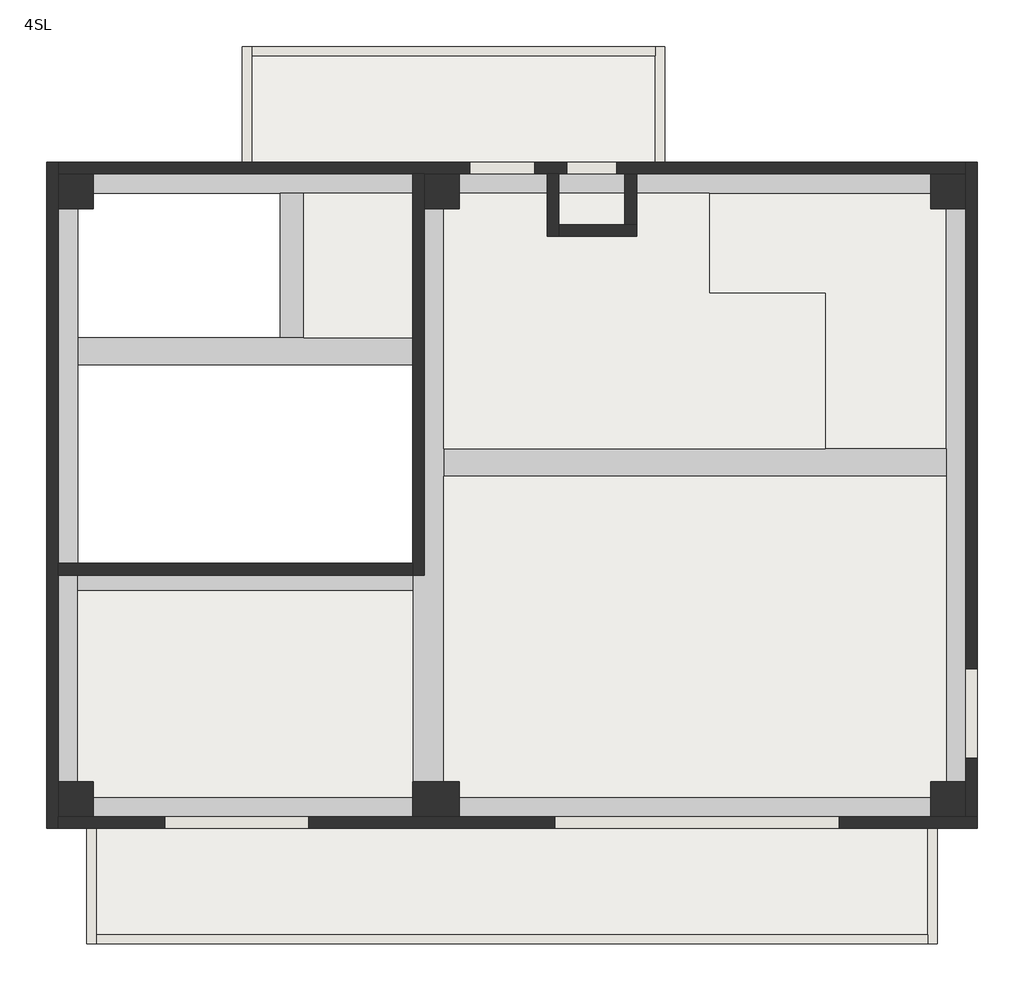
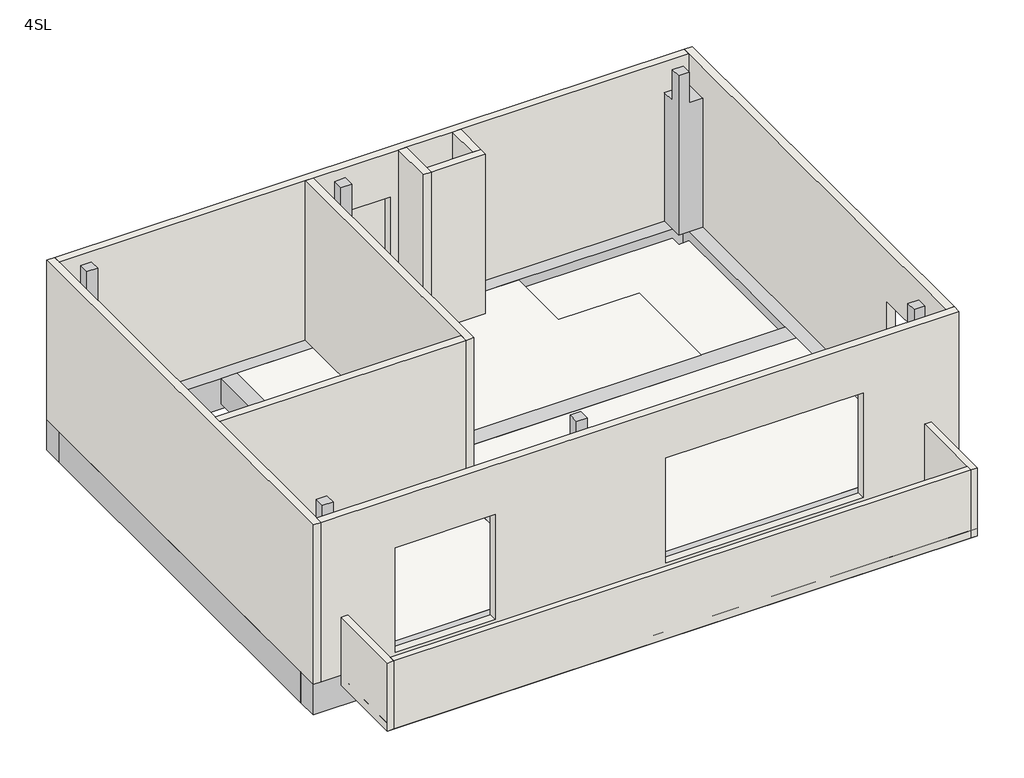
# One storey: 15 walls, 11 beams, 7 slabs, 6 columns.
"""IFC4 building model written with IfcOpenShell, lengths in millimetres."""

from ifc_helpers import new_model, si_unit, frame, origin, place, context, project, spatial, polyline, outline, extrude, faceted_brep, element, save

model = new_model("IFC4")

# Units and contexts
model_context = context("Model", 3, world=origin())
ifc_project = project(units=[si_unit("LENGTHUNIT", "METRE", prefix="MILLI")], contexts=[model_context])

# Site, building, storey
site = spatial("IfcSite", under=ifc_project)
building = spatial("IfcBuilding", under=site)
storey = spatial("IfcBuildingStorey", under=building, Name="4SL", Elevation=9660.0)

# Beams
placement = place(None, origin())
element("IfcBeam", 1, ObjectType="コンクリート-長方形梁 : B1-350x550", at=placement, inside=storey, context=model_context, shape_type="Brep", body=[
    faceted_brep([(325.0, 6225.0, 9660.0), (325.0, 5875.0, 9660.0), (4625.0, 5875.0, 9660.0), (4625.0, 6225.0, 9660.0), (3225.0, 6225.0, 9660.0), (2925.0, 6225.0, 9660.0), (325.0, 5875.0, 9110.0), (4625.0, 5875.0, 9110.0), (325.0, 6225.0, 9110.0), (4625.0, 6225.0, 9110.0)], [[[0, 1, 2, 3, 4, 5]], [[1, 6, 7, 2]], [[6, 8, 9, 7]], [[8, 0, 5, 4, 3, 9]], [[1, 0, 8, 6]], [[3, 2, 7, 9]]]),
])
element("IfcBeam", 2, ObjectType="コンクリート-長方形梁 : B1-350x550", at=placement, inside=storey, context=model_context, shape_type="SweptSolid", body=[
    extrude(outline(polyline([(325.0, 2975.0), (325.0, 3325.0), (4625.0, 3325.0), (4625.0, 2975.0), (325.0, 2975.0)])), frame((0.0, 0.0, 9110.0), z_axis=(0.0, 0.0, 1.0), x_axis=(1.0, 0.0, 0.0)), (0.0, 0.0, 1.0), 550.0),
])
element("IfcBeam", 3, ObjectType="コンクリート-長方形梁 : B1-350x550", at=placement, inside=storey, context=model_context, shape_type="SweptSolid", body=[
    extrude(outline(polyline([(11475.0, 4795.0), (11475.0, 4445.0), (5025.0, 4445.0), (5025.0, 4795.0), (11475.0, 4795.0)])), frame((0.0, 0.0, 9110.0), z_axis=(0.0, 0.0, 1.0), x_axis=(1.0, 0.0, 0.0)), (0.0, 0.0, 1.0), 550.0),
])
element("IfcBeam", 4, ObjectType="コンクリート-長方形梁 : B2-300x500", at=placement, inside=storey, context=model_context, shape_type="SweptSolid", body=[
    extrude(outline(polyline([(2925.0, 8075.0), (3225.0, 8075.0), (3225.0, 6225.0), (2925.0, 6225.0), (2925.0, 8075.0)])), frame((0.0, 0.0, 9160.0), z_axis=(0.0, 0.0, 1.0), x_axis=(1.0, 0.0, 0.0)), (0.0, 0.0, 1.0), 500.0),
])
element("IfcBeam", 5, ObjectType="コンクリート-長方形梁 : G1-400x600", at=placement, inside=storey, context=model_context, shape_type="Brep", body=[
    faceted_brep([(-75.0, 325.0, 9660.0), (-75.0, -75.0, 9660.0), (5025.0, -75.0, 9660.0), (5025.0, 325.0, 9660.0), (4625.0, 325.0, 9660.0), (525.0, 325.0, 9660.0), (325.0, 325.0, 9660.0), (-75.0, -75.0, 9060.0), (5025.0, -75.0, 9060.0), (-75.0, 325.0, 9060.0), (325.0, 325.0, 9060.0), (525.0, 325.0, 9060.0), (4625.0, 325.0, 9060.0), (5025.0, 325.0, 9060.0)], [[[0, 1, 2, 3, 4, 5, 6]], [[1, 7, 8, 2]], [[7, 9, 10, 11, 12, 13, 8]], [[9, 0, 6, 5, 4, 3, 13, 12, 11, 10]], [[1, 0, 9, 7]], [[3, 2, 8, 13]]]),
])
element("IfcBeam", 6, ObjectType="コンクリート-長方形梁 : G1-400x600", at=placement, inside=storey, context=model_context, shape_type="Brep", body=[
    faceted_brep([(11875.0, -75.0, 9660.0), (11875.0, 325.0, 9660.0), (11475.0, 325.0, 9660.0), (11275.0, 325.0, 9660.0), (5225.0, 325.0, 9660.0), (5025.0, 325.0, 9660.0), (5025.0, -75.0, 9660.0), (11875.0, -75.0, 9060.0), (5025.0, -75.0, 9060.0), (11875.0, 325.0, 9060.0), (5025.0, 325.0, 9060.0), (5225.0, 325.0, 9060.0), (11275.0, 325.0, 9060.0), (11475.0, 325.0, 9060.0)], [[[0, 1, 2, 3, 4, 5, 6]], [[7, 0, 6, 8]], [[9, 7, 8, 10, 11, 12, 13]], [[1, 9, 13, 12, 11, 10, 5, 4, 3, 2]], [[6, 5, 10, 8]], [[1, 0, 7, 9]]]),
])
element("IfcBeam", 7, ObjectType="コンクリート-長方形梁 : G1-400x600", at=placement, inside=storey, context=model_context, shape_type="Brep", body=[
    faceted_brep([(11875.0, 8475.0, 9660.0), (11475.0, 8475.0, 9660.0), (11475.0, 8075.0, 9660.0), (11475.0, 7875.0, 9660.0), (11475.0, 4795.0, 9660.0), (11475.0, 4445.0, 9660.0), (11475.0, 525.0, 9660.0), (11475.0, 325.0, 9660.0), (11875.0, 325.0, 9660.0), (11875.0, 8475.0, 9060.0), (11875.0, 325.0, 9060.0), (11475.0, 8475.0, 9060.0), (11475.0, 325.0, 9060.0), (11475.0, 525.0, 9060.0), (11475.0, 7875.0, 9060.0), (11475.0, 8075.0, 9060.0)], [[[0, 1, 2, 3, 4, 5, 6, 7, 8]], [[9, 0, 8, 10]], [[11, 9, 10, 12, 13, 14, 15]], [[1, 11, 15, 14, 13, 12, 7, 6, 5, 4, 3, 2]], [[8, 7, 12, 10]], [[1, 0, 9, 11]]]),
])
element("IfcBeam", 8, ObjectType="コンクリート-長方形梁 : G1-400x600", at=placement, inside=storey, context=model_context, shape_type="Brep", body=[
    faceted_brep([(4625.0, 8475.0, 9660.0), (4625.0, 8075.0, 9660.0), (5025.0, 8075.0, 9660.0), (5225.0, 8075.0, 9660.0), (11275.0, 8075.0, 9660.0), (11475.0, 8075.0, 9660.0), (11475.0, 8475.0, 9660.0), (4625.0, 8475.0, 9060.0), (11475.0, 8475.0, 9060.0), (4625.0, 8075.0, 9060.0), (11475.0, 8075.0, 9060.0), (11275.0, 8075.0, 9060.0), (5225.0, 8075.0, 9060.0), (5025.0, 8075.0, 9060.0)], [[[0, 1, 2, 3, 4, 5, 6]], [[7, 0, 6, 8]], [[9, 7, 8, 10, 11, 12, 13]], [[1, 9, 13, 12, 11, 10, 5, 4, 3, 2]], [[6, 5, 10, 8]], [[1, 0, 7, 9]]]),
])
element("IfcBeam", 9, ObjectType="コンクリート-長方形梁 : G1-400x600", at=placement, inside=storey, context=model_context, shape_type="Brep", body=[
    faceted_brep([(-75.0, 8475.0, 9660.0), (-75.0, 8075.0, 9660.0), (325.0, 8075.0, 9660.0), (525.0, 8075.0, 9660.0), (2925.0, 8075.0, 9660.0), (3225.0, 8075.0, 9660.0), (4625.0, 8075.0, 9660.0), (4625.0, 8475.0, 9660.0), (-75.0, 8475.0, 9060.0), (4625.0, 8475.0, 9060.0), (-75.0, 8075.0, 9060.0), (4625.0, 8075.0, 9060.0), (525.0, 8075.0, 9060.0), (325.0, 8075.0, 9060.0)], [[[0, 1, 2, 3, 4, 5, 6, 7]], [[8, 0, 7, 9]], [[10, 8, 9, 11, 12, 13]], [[1, 10, 13, 12, 11, 6, 5, 4, 3, 2]], [[7, 6, 11, 9]], [[1, 0, 8, 10]]]),
])
element("IfcBeam", 10, ObjectType="コンクリート-長方形梁 : G1-400x600", at=placement, inside=storey, context=model_context, shape_type="Brep", body=[
    faceted_brep([(-75.0, 325.0, 9660.0), (325.0, 325.0, 9660.0), (325.0, 525.0, 9660.0), (325.0, 2975.0, 9660.0), (325.0, 3325.0, 9660.0), (325.0, 5875.0, 9660.0), (325.0, 6225.0, 9660.0), (325.0, 7875.0, 9660.0), (325.0, 8075.0, 9660.0), (-75.0, 8075.0, 9660.0), (-75.0, 325.0, 9060.0), (-75.0, 8075.0, 9060.0), (325.0, 325.0, 9060.0), (325.0, 8075.0, 9060.0), (325.0, 7875.0, 9060.0), (325.0, 525.0, 9060.0)], [[[0, 1, 2, 3, 4, 5, 6, 7, 8, 9]], [[10, 0, 9, 11]], [[12, 10, 11, 13, 14, 15]], [[1, 12, 15, 14, 13, 8, 7, 6, 5, 4, 3, 2]], [[1, 0, 10, 12]], [[9, 8, 13, 11]]]),
])
element("IfcBeam", 11, ObjectType="コンクリート-長方形梁 : G1-400x600", at=placement, inside=storey, context=model_context, shape_type="Brep", body=[
    faceted_brep([(4625.0, 325.0, 9660.0), (5025.0, 325.0, 9660.0), (5025.0, 525.0, 9660.0), (5025.0, 4445.0, 9660.0), (5025.0, 4795.0, 9660.0), (5025.0, 7875.0, 9660.0), (5025.0, 8075.0, 9660.0), (4625.0, 8075.0, 9660.0), (4625.0, 6225.0, 9660.0), (4625.0, 5875.0, 9660.0), (4625.0, 3325.0, 9660.0), (4625.0, 2975.0, 9660.0), (4625.0, 325.0, 9060.0), (4625.0, 8075.0, 9060.0), (4625.0, 525.0, 9060.0), (5025.0, 325.0, 9060.0), (5025.0, 8075.0, 9060.0), (5025.0, 7875.0, 9060.0), (5025.0, 525.0, 9060.0)], [[[0, 1, 2, 3, 4, 5, 6, 7, 8, 9, 10, 11]], [[12, 0, 11, 10, 9, 8, 7, 13, 14]], [[15, 12, 14, 13, 16, 17, 18]], [[1, 15, 18, 17, 16, 6, 5, 4, 3, 2]], [[1, 0, 12, 15]], [[7, 6, 16, 13]]]),
])

# Columns
element("IfcColumn", 12, ObjectType="角柱 : 600 x 600mm", at=placement, inside=storey, context=model_context, shape_type="Brep", body=[
    faceted_brep([(525.0, 7875.0, 12780.0), (525.0, 8075.0, 12780.0), (325.0, 8075.0, 12780.0), (325.0, 7875.0, 12780.0), (525.0, 8325.0, 9660.0), (525.0, 7875.0, 9660.0), (75.0, 7875.0, 9660.0), (75.0, 8325.0, 9660.0), (325.0, 7875.0, 12180.0), (75.0, 7875.0, 12180.0), (525.0, 8325.0, 12180.0), (525.0, 8075.0, 12180.0), (75.0, 8325.0, 12180.0), (325.0, 8075.0, 12180.0)], [[[0, 1, 2, 3]], [[4, 5, 6, 7]], [[5, 0, 3, 8, 9, 6]], [[0, 5, 4, 10, 11, 1]], [[4, 7, 12, 10]], [[7, 6, 9, 12]], [[11, 10, 12, 9, 8, 13]], [[1, 11, 13, 2]], [[13, 8, 3, 2]]]),
])
element("IfcColumn", 13, ObjectType="角柱 : 600 x 600mm", at=placement, inside=storey, context=model_context, shape_type="Brep", body=[
    faceted_brep([(525.0, 525.0, 12780.0), (325.0, 525.0, 12780.0), (325.0, 325.0, 12780.0), (525.0, 325.0, 12780.0), (75.0, 525.0, 9660.0), (525.0, 525.0, 9660.0), (525.0, 75.0, 9660.0), (75.0, 75.0, 9660.0), (75.0, 525.0, 12180.0), (325.0, 525.0, 12180.0), (525.0, 325.0, 12180.0), (525.0, 75.0, 12180.0), (75.0, 75.0, 12180.0), (325.0, 325.0, 12180.0)], [[[0, 1, 2, 3]], [[4, 5, 6, 7]], [[0, 5, 4, 8, 9, 1]], [[5, 0, 3, 10, 11, 6]], [[4, 7, 12, 8]], [[7, 6, 11, 12]], [[9, 8, 12, 11, 10, 13]], [[1, 9, 13, 2]], [[13, 10, 3, 2]]]),
])
element("IfcColumn", 14, ObjectType="角柱 : 600 x 600mm", at=placement, inside=storey, context=model_context, shape_type="Brep", body=[
    faceted_brep([(5225.0, 525.0, 12780.0), (5025.0, 525.0, 12780.0), (5025.0, 325.0, 12780.0), (5225.0, 325.0, 12780.0), (4625.0, 525.0, 9660.0), (5225.0, 525.0, 9660.0), (5225.0, 75.0, 9660.0), (4625.0, 75.0, 9660.0), (4625.0, 525.0, 12180.0), (4685.0, 525.0, 12180.0), (4775.0, 525.0, 12180.0), (5025.0, 525.0, 12180.0), (4625.0, 75.0, 12180.0), (4625.0, 325.0, 12180.0), (5225.0, 325.0, 12180.0), (5225.0, 75.0, 12180.0), (5025.0, 75.0, 12180.0), (5025.0, 325.0, 12180.0)], [[[0, 1, 2, 3]], [[4, 5, 6, 7]], [[5, 4, 8, 9, 10, 11, 1, 0]], [[4, 7, 12, 13, 8]], [[5, 0, 3, 14, 15, 6]], [[7, 6, 15, 16, 12]], [[11, 10, 9, 8, 13, 12, 16, 15, 14, 17]], [[1, 11, 17, 2]], [[17, 14, 3, 2]]]),
])
element("IfcColumn", 15, ObjectType="角柱 : 600 x 600mm", at=placement, inside=storey, context=model_context, shape_type="Brep", body=[
    faceted_brep([(11475.0, 525.0, 12780.0), (11275.0, 525.0, 12780.0), (11275.0, 325.0, 12780.0), (11475.0, 325.0, 12780.0), (11275.0, 525.0, 9660.0), (11725.0, 525.0, 9660.0), (11725.0, 75.0, 9660.0), (11275.0, 75.0, 9660.0), (11475.0, 525.0, 12180.0), (11725.0, 525.0, 12180.0), (11275.0, 75.0, 12180.0), (11275.0, 325.0, 12180.0), (11725.0, 75.0, 12180.0), (11475.0, 325.0, 12180.0)], [[[0, 1, 2, 3]], [[4, 5, 6, 7]], [[4, 1, 0, 8, 9, 5]], [[1, 4, 7, 10, 11, 2]], [[6, 5, 9, 12]], [[7, 6, 12, 10]], [[9, 8, 13, 11, 10, 12]], [[8, 0, 3, 13]], [[11, 13, 3, 2]]]),
])
element("IfcColumn", 16, ObjectType="角柱 : 600 x 600mm", at=placement, inside=storey, context=model_context, shape_type="Brep", body=[
    faceted_brep([(11275.0, 8075.0, 12780.0), (11275.0, 7875.0, 12780.0), (11475.0, 7875.0, 12780.0), (11475.0, 8075.0, 12780.0), (11275.0, 7875.0, 9660.0), (11275.0, 8325.0, 9660.0), (11725.0, 8325.0, 9660.0), (11725.0, 7875.0, 9660.0), (11275.0, 8075.0, 12180.0), (11275.0, 8325.0, 12180.0), (11725.0, 7875.0, 12180.0), (11475.0, 7875.0, 12180.0), (11725.0, 8325.0, 12180.0), (11475.0, 8075.0, 12180.0)], [[[0, 1, 2, 3]], [[4, 5, 6, 7]], [[4, 1, 0, 8, 9, 5]], [[1, 4, 7, 10, 11, 2]], [[6, 5, 9, 12]], [[7, 6, 12, 10]], [[9, 8, 13, 11, 10, 12]], [[8, 0, 3, 13]], [[11, 13, 3, 2]]]),
])
element("IfcColumn", 17, ObjectType="角柱 : 600 x 600mm", at=placement, inside=storey, context=model_context, shape_type="Brep", body=[
    faceted_brep([(5225.0, 7875.0, 12780.0), (5225.0, 8075.0, 12780.0), (5025.0, 8075.0, 12780.0), (5025.0, 7875.0, 12780.0), (5225.0, 8325.0, 9660.0), (5225.0, 7875.0, 9660.0), (4775.0, 7875.0, 9660.0), (4775.0, 8325.0, 9660.0), (5025.0, 7875.0, 12180.0), (4775.0, 7875.0, 12180.0), (5225.0, 8325.0, 12180.0), (5225.0, 8075.0, 12180.0), (4775.0, 8325.0, 12180.0), (5025.0, 8325.0, 12180.0), (4775.0, 8075.0, 12180.0), (5025.0, 8075.0, 12180.0)], [[[0, 1, 2, 3]], [[4, 5, 6, 7]], [[5, 0, 3, 8, 9, 6]], [[0, 5, 4, 10, 11, 1]], [[4, 7, 12, 13, 10]], [[7, 6, 9, 14, 12]], [[11, 10, 13, 12, 14, 9, 8, 15]], [[1, 11, 15, 2]], [[15, 8, 3, 2]]]),
])

# Slabs
element("IfcSlab", 18, ObjectType="一般180mm", at=placement, inside=storey, context=model_context, shape_type="SweptSolid", body=[
    extrude(outline(polyline([(4625.0, 2975.0), (4625.0, 325.0), (525.0, 325.0), (525.0, 525.0), (325.0, 525.0), (325.0, 2975.0), (4625.0, 2975.0)])), frame((0.0, 0.0, 9480.0), z_axis=(0.0, 0.0, 1.0), x_axis=(1.0, 0.0, 0.0)), (0.0, 0.0, 1.0), 180.0),
])
element("IfcSlab", 19, ObjectType="一般180mm", at=placement, inside=storey, context=model_context, shape_type="SweptSolid", body=[
    extrude(outline(polyline([(5025.0, 525.0), (5025.0, 4445.0), (11475.0, 4445.0), (11475.0, 525.0), (11275.0, 525.0), (11275.0, 325.0), (5225.0, 325.0), (5225.0, 525.0), (5025.0, 525.0)])), frame((0.0, 0.0, 9480.0), z_axis=(0.0, 0.0, 1.0), x_axis=(1.0, 0.0, 0.0)), (0.0, 0.0, 1.0), 180.0),
])
element("IfcSlab", 20, ObjectType="一般180mm", at=placement, inside=storey, context=model_context, shape_type="SweptSolid", body=[
    extrude(outline(polyline([(5225.0, 7875.0), (5225.0, 8075.0), (8430.0, 8075.0), (8430.0, 6795.0), (9920.0, 6795.0), (9920.0, 4795.0), (5025.0, 4795.0), (5025.0, 7875.0), (5225.0, 7875.0)])), frame((0.0, 0.0, 9480.0), z_axis=(0.0, 0.0, 1.0), x_axis=(1.0, 0.0, 0.0)), (0.0, 0.0, 1.0), 180.0),
])
element("IfcSlab", 21, ObjectType="一般180mm", at=placement, inside=storey, context=model_context, shape_type="SweptSolid", body=[
    extrude(outline(polyline([(11275.0, 7875.0), (11475.0, 7875.0), (11475.0, 4795.0), (9560.0, 4795.0), (9560.0, 6435.0), (8070.0, 6435.0), (8070.0, 8075.0), (11275.0, 8075.0), (11275.0, 7875.0)])), frame((0.0, 0.0, 9300.0), z_axis=(0.0, 0.0, 1.0), x_axis=(1.0, 0.0, 0.0)), (0.0, 0.0, 1.0), 180.0),
])
element("IfcSlab", 22, ObjectType="一般180mm", at=placement, inside=storey, context=model_context, shape_type="SweptSolid", body=[
    extrude(outline(polyline([(-75.0, 9465.0), (-1560.0, 9465.0), (-1560.0, 9615.0), (-75.0, 9645.0), (-75.0, 9465.0)])), frame((440.0, 0.0, 0.0), z_axis=(1.0, 0.0, 0.0), x_axis=(0.0, 1.0, 0.0)), (0.0, 0.0, 1.0), 10920.0),
])
element("IfcSlab", 23, ObjectType="一般180mm", at=placement, inside=storey, context=model_context, shape_type="SweptSolid", body=[
    extrude(outline(polyline([(9960.0, 9465.0), (8475.0, 9465.0), (8475.0, 9645.0), (9960.0, 9615.0), (9960.0, 9465.0)])), frame((2440.0, 0.0, 0.0), z_axis=(1.0, 0.0, 0.0), x_axis=(0.0, 1.0, 0.0)), (0.0, 0.0, 1.0), 5420.0),
])
element("IfcSlab", 24, ObjectType="一般180mm", at=placement, inside=storey, context=model_context, shape_type="SweptSolid", body=[
    extrude(outline(polyline([(3225.0, 8075.0), (4625.0, 8075.0), (4625.0, 6225.0), (3225.0, 6225.0), (3225.0, 8075.0)])), frame((0.0, 0.0, 9480.0), z_axis=(0.0, 0.0, 1.0), x_axis=(1.0, 0.0, 0.0)), (0.0, 0.0, 1.0), 180.0),
])

# Walls
element("IfcWall", 25, ObjectType="標準-120mm", at=placement, inside=storey, context=model_context, shape_type="Brep", body=[
    faceted_brep([(440.0, -75.0, 10795.0), (440.0, -75.0, 9465.0), (440.0, -1560.0, 9465.0), (440.0, -1560.0, 10795.0), (560.0, -75.0, 9465.0), (560.0, -75.0, 10795.0), (560.0, -1440.0, 10795.0), (560.0, -1560.0, 10795.0), (560.0, -1560.0, 9465.0), (560.0, -1440.0, 9465.0)], [[[0, 1, 2, 3]], [[4, 5, 6, 7, 8, 9]], [[2, 1, 4, 9, 8]], [[0, 3, 7, 6, 5]], [[3, 2, 8, 7]], [[0, 5, 4, 1]]]),
])
element("IfcWall", 26, ObjectType="標準-120mm", at=placement, inside=storey, context=model_context, shape_type="Brep", body=[
    faceted_brep([(11240.0, -75.0, 10795.0), (11240.0, -75.0, 9465.0), (11240.0, -1440.0, 9465.0), (11240.0, -1560.0, 9465.0), (11240.0, -1560.0, 10795.0), (11240.0, -1440.0, 10795.0), (11360.0, -75.0, 9465.0), (11360.0, -75.0, 10795.0), (11360.0, -1560.0, 10795.0), (11360.0, -1560.0, 9465.0)], [[[0, 1, 2, 3, 4, 5]], [[6, 7, 8, 9]], [[3, 2, 1, 6, 9]], [[0, 5, 4, 8, 7]], [[4, 3, 9, 8]], [[0, 7, 6, 1]]]),
])
element("IfcWall", 27, ObjectType="標準-120mm", at=placement, inside=storey, context=model_context, shape_type="SweptSolid", body=[
    extrude(outline(polyline([(560.0, -1440.0), (11240.0, -1440.0), (11240.0, -1560.0), (560.0, -1560.0), (560.0, -1440.0)])), frame((0.0, 0.0, 9465.0), z_axis=(0.0, 0.0, 1.0), x_axis=(1.0, 0.0, 0.0)), (0.0, 0.0, 1.0), 1330.0),
])
element("IfcWall", 28, ObjectType="標準-120mm", at=placement, inside=storey, context=model_context, shape_type="Brep", body=[
    faceted_brep([(2560.0, 8475.0, 10795.0), (2560.0, 8475.0, 9465.0), (2560.0, 9840.0, 9465.0), (2560.0, 9960.0, 9465.0), (2560.0, 9960.0, 10795.0), (2560.0, 9840.0, 10795.0), (2440.0, 8475.0, 9465.0), (2440.0, 8475.0, 10795.0), (2440.0, 9960.0, 10795.0), (2440.0, 9960.0, 9465.0)], [[[0, 1, 2, 3, 4, 5]], [[6, 7, 8, 9]], [[3, 2, 1, 6, 9]], [[0, 5, 4, 8, 7]], [[4, 3, 9, 8]], [[0, 7, 6, 1]]]),
])
element("IfcWall", 29, ObjectType="標準-120mm", at=placement, inside=storey, context=model_context, shape_type="Brep", body=[
    faceted_brep([(7860.0, 8475.0, 10795.0), (7860.0, 8475.0, 9465.0), (7860.0, 9960.0, 9465.0), (7860.0, 9960.0, 10795.0), (7740.0, 8475.0, 9465.0), (7740.0, 8475.0, 10795.0), (7740.0, 9840.0, 10795.0), (7740.0, 9960.0, 10795.0), (7740.0, 9960.0, 9465.0), (7740.0, 9840.0, 9465.0)], [[[0, 1, 2, 3]], [[4, 5, 6, 7, 8, 9]], [[2, 1, 4, 9, 8]], [[0, 3, 7, 6, 5]], [[3, 2, 8, 7]], [[0, 5, 4, 1]]]),
])
element("IfcWall", 30, ObjectType="標準-120mm", at=placement, inside=storey, context=model_context, shape_type="SweptSolid", body=[
    extrude(outline(polyline([(7740.0, 9840.0), (2560.0, 9840.0), (2560.0, 9960.0), (7740.0, 9960.0), (7740.0, 9840.0)])), frame((0.0, 0.0, 9465.0), z_axis=(0.0, 0.0, 1.0), x_axis=(1.0, 0.0, 0.0)), (0.0, 0.0, 1.0), 1330.0),
])
element("IfcWall", 31, ObjectType="標準-150mm", at=placement, inside=storey, context=model_context, shape_type="Brep", body=[
    faceted_brep([(-75.0, 8475.0, 9660.0), (-75.0, -75.0, 9660.0), (-75.0, -75.0, 12780.0), (-75.0, 8475.0, 12780.0), (75.0, 8475.0, 9660.0), (75.0, 8475.0, 12780.0), (75.0, 8325.0, 12780.0), (75.0, 3325.0, 12780.0), (75.0, 3175.0, 12780.0), (75.0, 75.0, 12780.0), (75.0, -75.0, 12780.0), (75.0, -75.0, 9660.0), (75.0, 75.0, 9660.0), (75.0, 525.0, 9660.0), (75.0, 3175.0, 9660.0), (75.0, 3325.0, 9660.0), (75.0, 7875.0, 9660.0), (75.0, 8325.0, 9660.0)], [[[0, 1, 2, 3]], [[4, 5, 6, 7, 8, 9, 10, 11, 12, 13, 14, 15, 16, 17]], [[1, 0, 4, 17, 16, 15, 14, 13, 12, 11]], [[3, 2, 10, 9, 8, 7, 6, 5]], [[2, 1, 11, 10]], [[0, 3, 5, 4]]]),
])
element("IfcWall", 32, ObjectType="標準-150mm", at=placement, inside=storey, context=model_context, shape_type="Brep", body=[
    faceted_brep([(75.0, -75.0, 9660.0), (11875.0, -75.0, 9660.0), (11875.0, -75.0, 12780.0), (75.0, -75.0, 12780.0), (10100.0, -75.0, 9755.0), (6450.0, -75.0, 9755.0), (6450.0, -75.0, 11805.0), (10100.0, -75.0, 11805.0), (1440.0, -75.0, 11805.0), (3290.0, -75.0, 11805.0), (3290.0, -75.0, 9755.0), (1440.0, -75.0, 9755.0), (75.0, 75.0, 9660.0), (75.0, 75.0, 12180.0), (75.0, 75.0, 12780.0), (11725.0, 75.0, 12780.0), (11875.0, 75.0, 12780.0), (11875.0, 75.0, 9660.0), (11725.0, 75.0, 9660.0), (11275.0, 75.0, 9660.0), (5225.0, 75.0, 9660.0), (4625.0, 75.0, 9660.0), (525.0, 75.0, 9660.0), (10100.0, 75.0, 9755.0), (10100.0, 75.0, 11805.0), (6450.0, 75.0, 11805.0), (6450.0, 75.0, 9755.0), (1440.0, 75.0, 11805.0), (1440.0, 75.0, 9755.0), (3290.0, 75.0, 9755.0), (3290.0, 75.0, 11805.0)], [[[0, 1, 2, 3], [4, 5, 6, 7], [8, 9, 10, 11]], [[12, 13, 14, 15, 16, 17, 18, 19, 20, 21, 22], [23, 24, 25, 26], [27, 28, 29, 30]], [[1, 0, 12, 22, 21, 20, 19, 18, 17]], [[3, 2, 16, 15, 14]], [[0, 3, 14, 13, 12]], [[2, 1, 17, 16]], [[24, 23, 4, 7]], [[25, 24, 7, 6]], [[26, 25, 6, 5]], [[23, 26, 5, 4]], [[28, 27, 8, 11]], [[29, 28, 11, 10]], [[30, 29, 10, 9]], [[27, 30, 9, 8]]]),
])
element("IfcWall", 33, ObjectType="標準-150mm", at=placement, inside=storey, context=model_context, shape_type="Brep", body=[
    faceted_brep([(11875.0, 75.0, 9660.0), (11875.0, 8475.0, 9660.0), (11875.0, 8475.0, 12780.0), (11875.0, 75.0, 12780.0), (11875.0, 825.0, 11770.0), (11875.0, 1975.0, 11770.0), (11875.0, 1975.0, 10520.0), (11875.0, 825.0, 10520.0), (11725.0, 75.0, 9660.0), (11725.0, 75.0, 12180.0), (11725.0, 75.0, 12780.0), (11725.0, 8325.0, 12780.0), (11725.0, 8475.0, 12780.0), (11725.0, 8475.0, 9660.0), (11725.0, 8325.0, 9660.0), (11725.0, 7875.0, 9660.0), (11725.0, 525.0, 9660.0), (11725.0, 825.0, 11770.0), (11725.0, 825.0, 10520.0), (11725.0, 1975.0, 10520.0), (11725.0, 1975.0, 11770.0)], [[[0, 1, 2, 3], [4, 5, 6, 7]], [[8, 9, 10, 11, 12, 13, 14, 15, 16], [17, 18, 19, 20]], [[1, 0, 8, 16, 15, 14, 13]], [[3, 2, 12, 11, 10]], [[0, 3, 10, 9, 8]], [[2, 1, 13, 12]], [[18, 17, 4, 7]], [[19, 18, 7, 6]], [[20, 19, 6, 5]], [[17, 20, 5, 4]]]),
])
element("IfcWall", 34, ObjectType="標準-150mm", at=placement, inside=storey, context=model_context, shape_type="Brep", body=[
    faceted_brep([(11725.0, 8475.0, 9660.0), (75.0, 8475.0, 9660.0), (75.0, 8475.0, 12780.0), (11725.0, 8475.0, 12780.0), (6195.0, 8475.0, 11915.0), (5355.0, 8475.0, 11915.0), (5355.0, 8475.0, 9695.0), (6195.0, 8475.0, 9695.0), (7245.0, 8475.0, 11915.0), (6605.0, 8475.0, 11915.0), (6605.0, 8475.0, 9695.0), (7245.0, 8475.0, 9695.0), (11725.0, 8325.0, 9660.0), (11725.0, 8325.0, 12180.0), (11725.0, 8325.0, 12780.0), (7500.0, 8325.0, 12780.0), (7350.0, 8325.0, 12780.0), (6500.0, 8325.0, 12780.0), (6350.0, 8325.0, 12780.0), (4775.0, 8325.0, 12780.0), (4625.0, 8325.0, 12780.0), (75.0, 8325.0, 12780.0), (75.0, 8325.0, 12180.0), (75.0, 8325.0, 9660.0), (525.0, 8325.0, 9660.0), (4625.0, 8325.0, 9660.0), (4775.0, 8325.0, 9660.0), (5225.0, 8325.0, 9660.0), (6350.0, 8325.0, 9660.0), (6500.0, 8325.0, 9660.0), (7350.0, 8325.0, 9660.0), (7500.0, 8325.0, 9660.0), (8340.0, 8325.0, 9660.0), (8430.0, 8325.0, 9660.0), (11275.0, 8325.0, 9660.0), (6195.0, 8325.0, 11915.0), (6195.0, 8325.0, 9695.0), (5355.0, 8325.0, 9695.0), (5355.0, 8325.0, 11915.0), (7245.0, 8325.0, 11915.0), (7245.0, 8325.0, 9695.0), (6605.0, 8325.0, 9695.0), (6605.0, 8325.0, 11915.0)], [[[0, 1, 2, 3], [4, 5, 6, 7], [8, 9, 10, 11]], [[12, 13, 14, 15, 16, 17, 18, 19, 20, 21, 22, 23, 24, 25, 26, 27, 28, 29, 30, 31, 32, 33, 34], [35, 36, 37, 38], [39, 40, 41, 42]], [[1, 0, 12, 34, 33, 32, 31, 30, 29, 28, 27, 26, 25, 24, 23]], [[3, 2, 21, 20, 19, 18, 17, 16, 15, 14]], [[0, 3, 14, 13, 12]], [[2, 1, 23, 22, 21]], [[36, 35, 4, 7]], [[37, 36, 7, 6]], [[38, 37, 6, 5]], [[35, 38, 5, 4]], [[40, 39, 8, 11]], [[41, 40, 11, 10]], [[42, 41, 10, 9]], [[39, 42, 9, 8]]]),
])
element("IfcWall", 35, ObjectType="標準-150mm", at=placement, inside=storey, context=model_context, shape_type="Brep", body=[
    faceted_brep([(4625.0, 8325.0, 9660.0), (4625.0, 3325.0, 9660.0), (4625.0, 3175.0, 9660.0), (4625.0, 3175.0, 12780.0), (4625.0, 3325.0, 12780.0), (4625.0, 8325.0, 12780.0), (4775.0, 8325.0, 9660.0), (4775.0, 8325.0, 12180.0), (4775.0, 8325.0, 12780.0), (4775.0, 3175.0, 12780.0), (4775.0, 3175.0, 9660.0), (4775.0, 7875.0, 9660.0)], [[[0, 1, 2, 3, 4, 5]], [[6, 7, 8, 9, 10, 11]], [[2, 1, 0, 6, 11, 10]], [[5, 4, 3, 9, 8]], [[2, 10, 9, 3]], [[0, 5, 8, 7, 6]]]),
])
element("IfcWall", 36, ObjectType="標準-150mm", at=placement, inside=storey, context=model_context, shape_type="SweptSolid", body=[
    extrude(outline(polyline([(75.0, 3325.0), (4625.0, 3325.0), (4625.0, 3175.0), (75.0, 3175.0), (75.0, 3325.0)])), frame((0.0, 0.0, 9660.0), z_axis=(0.0, 0.0, 1.0), x_axis=(1.0, 0.0, 0.0)), (0.0, 0.0, 1.0), 3120.0),
])
element("IfcWall", 37, ObjectType="標準-150mm", at=placement, inside=storey, context=model_context, shape_type="Brep", body=[
    faceted_brep([(6350.0, 8325.0, 9660.0), (6350.0, 7525.0, 9660.0), (6350.0, 7525.0, 12780.0), (6350.0, 8325.0, 12780.0), (6500.0, 8325.0, 9660.0), (6500.0, 8325.0, 12780.0), (6500.0, 7675.0, 12780.0), (6500.0, 7525.0, 12780.0), (6500.0, 7525.0, 9660.0), (6500.0, 7675.0, 9660.0), (6440.0, 7525.0, 9660.0)], [[[0, 1, 2, 3]], [[4, 5, 6, 7, 8, 9]], [[1, 0, 4, 9, 8, 10]], [[3, 2, 7, 6, 5]], [[0, 3, 5, 4]], [[1, 10, 8, 7, 2]]]),
])
element("IfcWall", 38, ObjectType="標準-150mm", at=placement, inside=storey, context=model_context, shape_type="Brep", body=[
    faceted_brep([(6500.0, 7525.0, 12780.0), (6500.0, 7525.0, 9660.0), (7500.0, 7525.0, 9660.0), (7500.0, 7525.0, 9695.0), (7500.0, 7525.0, 12095.0), (7500.0, 7525.0, 12780.0), (6500.0, 7675.0, 9660.0), (6500.0, 7675.0, 12780.0), (7350.0, 7675.0, 12780.0), (7500.0, 7675.0, 12780.0), (7500.0, 7675.0, 9660.0), (7350.0, 7675.0, 9660.0)], [[[0, 1, 2, 3, 4, 5]], [[6, 7, 8, 9, 10, 11]], [[2, 1, 6, 11, 10]], [[0, 5, 9, 8, 7]], [[2, 10, 9, 5, 4, 3]], [[0, 7, 6, 1]]]),
])
element("IfcWall", 39, ObjectType="標準-150mm", at=placement, inside=storey, context=model_context, shape_type="SweptSolid", body=[
    extrude(outline(polyline([(7500.0, 8325.0), (7500.0, 7675.0), (7350.0, 7675.0), (7350.0, 8325.0), (7500.0, 8325.0)])), frame((0.0, 0.0, 9660.0), z_axis=(0.0, 0.0, 1.0), x_axis=(1.0, 0.0, 0.0)), (0.0, 0.0, 1.0), 3120.0),
])

save(model, "model.ifc")
